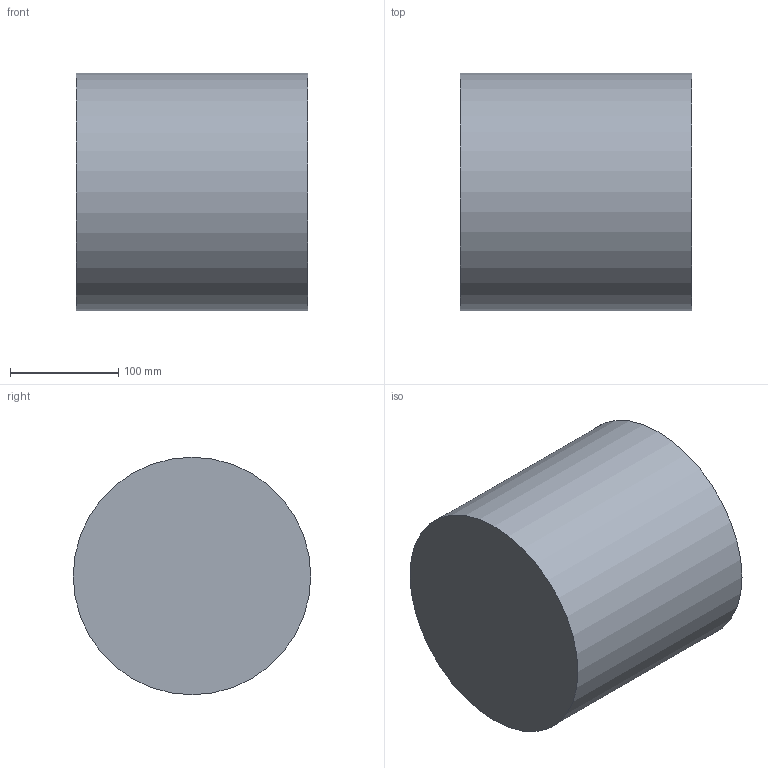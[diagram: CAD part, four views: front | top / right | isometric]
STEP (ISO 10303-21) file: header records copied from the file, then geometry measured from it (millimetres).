
FILE_DESCRIPTION(/* description */ (''),/* implementation_level */ '2;1');
FILE_NAME(/* name */ 'Endkappe 219.1.stp',/* time_stamp */ '2024-03-12T16:02:52+01:00',/* author */ ('peter.csaszar'),/* organization */ (''),/* preprocessor_version */ 'ST-DEVELOPER v20',/* originating_system */ 'Autodesk Inventor 2024',/* authorisation */ '');
FILE_SCHEMA (('AUTOMOTIVE_DESIGN { 1 0 10303 214 3 1 1 }'));
Length unit declared in the file: millimetre
Products named in the file (1): Bauteil1
Bounding box: 214 x 219.1 x 219.1 mm (x, y, z)
Volume: 542851.2 mm3; surface area: 363965.8 mm2
Topology: 1 solids, 1 shells, 5 faces, 6 edges, 4 vertices
Faces by surface type: plane 3, cylinder 2
Full cylindrical faces by diameter (mm): 213.1 x1, 219.1 x1
Entity records: 147 total; most frequent: DIRECTION 22, CARTESIAN_POINT 16, ORIENTED_EDGE 12, AXIS2_PLACEMENT_3D 10, EDGE_LOOP 6, EDGE_CURVE 6, FACE_OUTER_BOUND 5, ADVANCED_FACE 5
